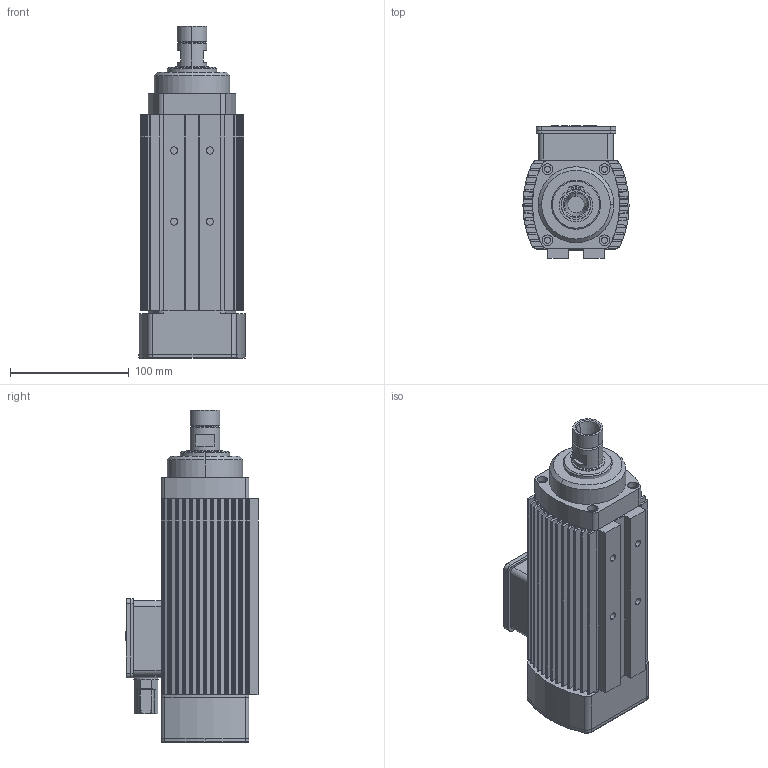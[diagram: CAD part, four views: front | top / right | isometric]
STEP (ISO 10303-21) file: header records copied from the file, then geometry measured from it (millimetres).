
FILE_DESCRIPTION (( 'STEP AP203' ), '1' );
FILE_NAME ('ARFM.2Y-M ER 20.STEP', '2021-08-06T05:52:42', ( '' ), ( '' ), 'SwSTEP 2.0', 'SolidWorks 2014', '' );
FILE_SCHEMA (( 'CONFIG_CONTROL_DESIGN' ));
Length unit declared in the file: millimetre
Products named in the file (12): ARFM.2Y-M ER 20; pg 9 týrnaklý; arfm.2y arka kapak; arfm.2y rotor mili ER 20; klemens kutusu; Klemens Kutusu; arfm.2y ön kapak tek bilyalý; 471-25 Sekman_98541A440; klemens kutusu kapaðý; arfm.2y-m gövde; arfm.2y rulman toz kapak; arfm.2y-m arka hava kapak
Assembly tree (11 placements, depth 3):
  ARFM.2Y-M ER 20
    arfm.2y-m gövde
    arfm.2y arka kapak
    arfm.2y ön kapak tek bilyalý
    arfm.2y-m arka hava kapak
    Klemens Kutusu
      klemens kutusu
      klemens kutusu kapaðý
      pg 9 týrnaklý
    arfm.2y rulman toz kapak
    arfm.2y rotor mili ER 20
    471-25 Sekman_98541A440
Bounding box: 89.6 x 112 x 280 mm (x, y, z)
Volume: 1498382.8 mm3; surface area: 221342.7 mm2
Topology: 10 solids, 10 shells, 776 faces, 2051 edges, 1337 vertices
Faces by surface type: cylinder 434, plane 318, torus 13, cone 6, bspline 5
Entity records: 25937 total; most frequent: CARTESIAN_POINT 4870, DIRECTION 4277, ORIENTED_EDGE 4102, EDGE_CURVE 2051, AXIS2_PLACEMENT_3D 1540, VERTEX_POINT 1337, VECTOR 1197, LINE 1197
